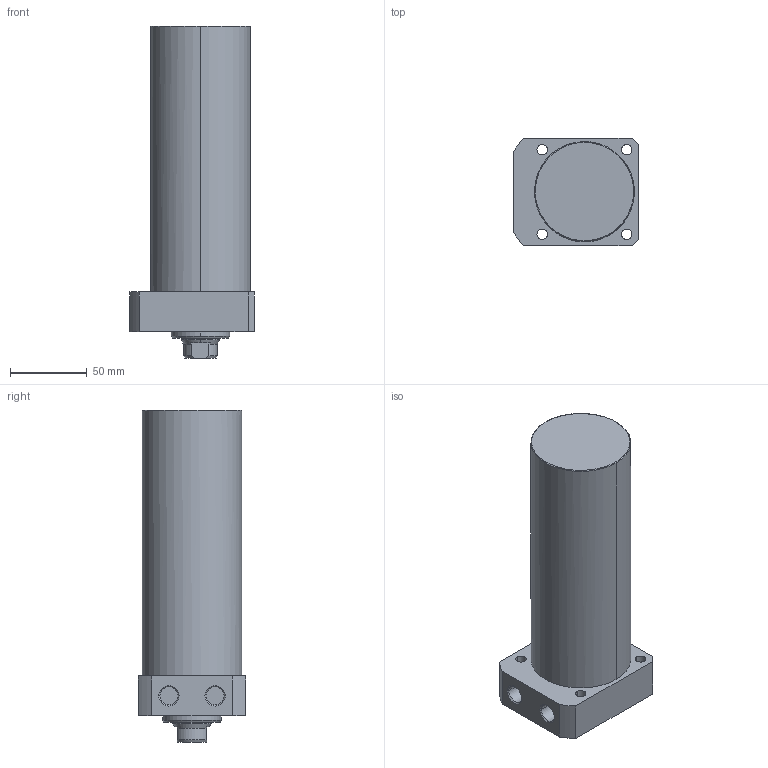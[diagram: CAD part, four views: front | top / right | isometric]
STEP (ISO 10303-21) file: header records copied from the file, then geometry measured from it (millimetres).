
FILE_DESCRIPTION((' '),'2;1');
FILE_NAME( 'TLLR-065CA-140.STEP.stp', '2025-10-24T16:34:55', (' '), ('--- Datakit www.datakit.com---'), ' Datakit CrossCadWare V2024.1 Dec 21 2023', 'Mastercam 2025', ' ');
FILE_SCHEMA(('AUTOMOTIVE_DESIGN { 1 0 10303 214 1 1 1 1 }'));
Length unit declared in the file: millimetre
Products named in the file (1): TLLR-065CA-140
Bounding box: 81 x 70 x 216 mm (x, y, z)
Volume: 718040.1 mm3; surface area: 59757 mm2
Topology: 1 solids, 1 shells, 63 faces, 179 edges, 124 vertices
Faces by surface type: cylinder 28, plane 19, cone 14, torus 2
Entity records: 2174 total; most frequent: DIRECTION 402, CARTESIAN_POINT 397, ORIENTED_EDGE 354, EDGE_CURVE 177, AXIS2_PLACEMENT_3D 169, VERTEX_POINT 124, CIRCLE 105, EDGE_LOOP 79
